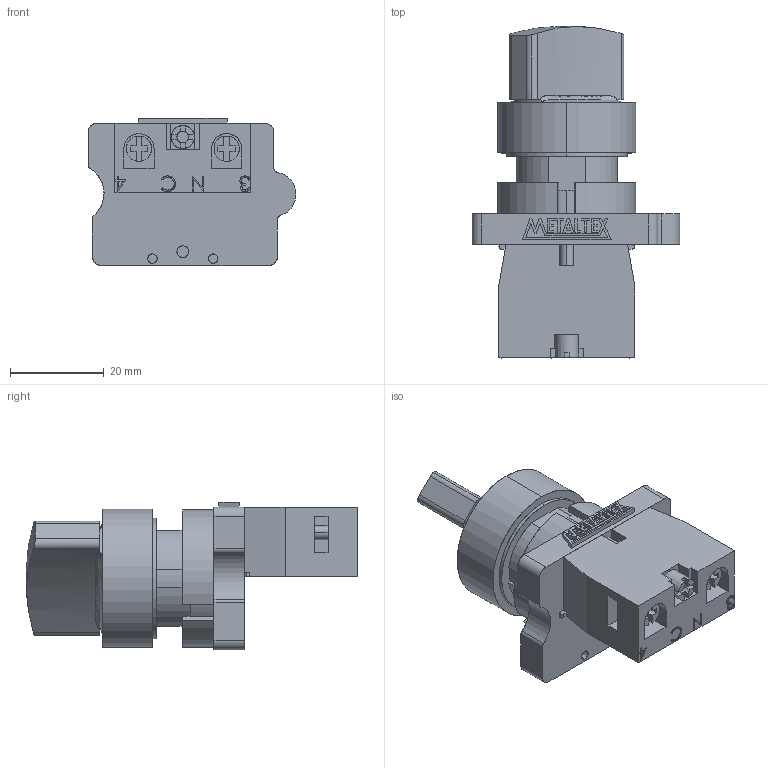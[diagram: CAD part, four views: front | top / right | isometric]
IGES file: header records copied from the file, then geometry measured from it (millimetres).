
Start section: SolidWorks IGES file using analytic representation for surfaces
Global section: file name: D:\X - Arquivos\PROEX\Empresas\P11 - METALTEX\01 - Produtos\IGES\Segunda remessa\P20SCR.IGS; native system: SolidWorks 2012; preprocessor: SolidWorks 2012; author: Usuario; date: 180117.120650; units: millimetre
Bounding box: 44.44 x 71 x 31.5 mm (x, y, z)
Surface area: 12698.5 mm2 (no closed solid volume)
Topology: 0 solids, 0 shells, 379 faces, 4175 edges, 4175 vertices
Faces by surface type: bspline 298, revolution 81
